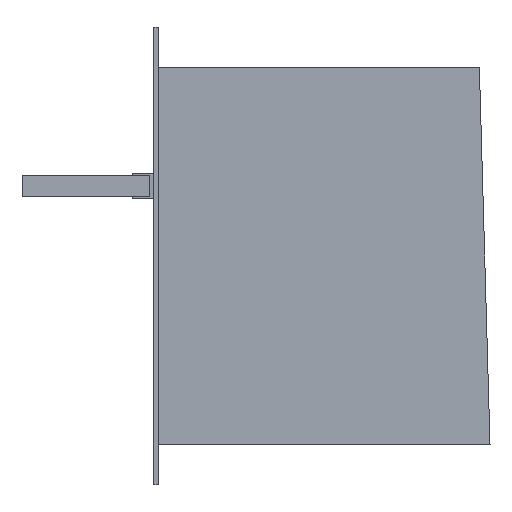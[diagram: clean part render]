
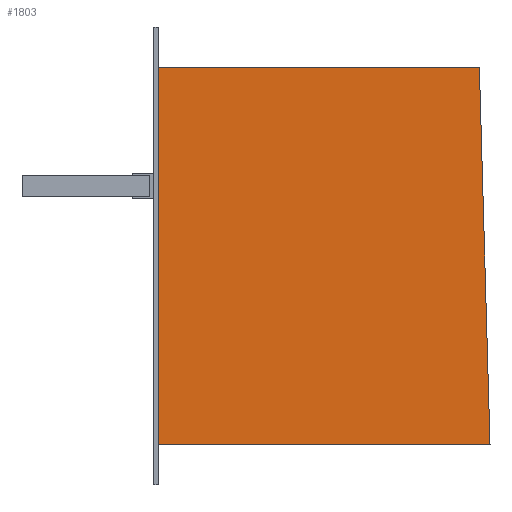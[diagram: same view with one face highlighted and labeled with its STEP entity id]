
A CAD part, left-side view. The second image highlights one B-rep face of the part: STEP entity #1803.
In plain terms, the highlighted planar face has unit normal (-1, 0, 0).
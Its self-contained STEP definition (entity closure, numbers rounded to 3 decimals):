
#3 = DIRECTION ( 'NONE',  ( 1., 0., 0. ) ) ;
#11 = CARTESIAN_POINT ( 'NONE',  ( -1241., 0., -88.5 ) ) ;
#103 = ORIENTED_EDGE ( 'NONE', *, *, #1434, .T. ) ;
#104 = VECTOR ( 'NONE', #258, 1000. ) ;
#147 = EDGE_CURVE ( 'NONE', #1546, #754, #1764, .T. ) ;
#149 = LINE ( 'NONE', #1220, #457 ) ;
#219 = CARTESIAN_POINT ( 'NONE',  ( -1241., 0., 88.5 ) ) ;
#258 = DIRECTION ( 'NONE',  ( 0., 1., 0. ) ) ;
#299 = AXIS2_PLACEMENT_3D ( 'NONE', #1351, #3, #915 ) ;
#312 = FACE_OUTER_BOUND ( 'NONE', #928, .T. ) ;
#315 = DIRECTION ( 'NONE',  ( 0., 0.028, 1. ) ) ;
#457 = VECTOR ( 'NONE', #1672, 1000. ) ;
#467 = EDGE_CURVE ( 'NONE', #625, #1601, #1193, .T. ) ;
#524 = VECTOR ( 'NONE', #315, 1000. ) ;
#545 = VECTOR ( 'NONE', #1492, 1000. ) ;
#625 = VERTEX_POINT ( 'NONE', #11 ) ;
#661 = CARTESIAN_POINT ( 'NONE',  ( -1241., -151., 88.5 ) ) ;
#754 = VERTEX_POINT ( 'NONE', #219 ) ;
#915 = DIRECTION ( 'NONE',  ( 0., 0., -1. ) ) ;
#923 = PLANE ( 'NONE',  #299 ) ;
#928 = EDGE_LOOP ( 'NONE', ( #1363, #103, #1157, #1749 ) ) ;
#957 = LINE ( 'NONE', #1557, #524 ) ;
#1157 = ORIENTED_EDGE ( 'NONE', *, *, #147, .T. ) ;
#1173 = CARTESIAN_POINT ( 'NONE',  ( -1241., -156., -88.5 ) ) ;
#1193 = LINE ( 'NONE', #1481, #545 ) ;
#1220 = CARTESIAN_POINT ( 'NONE',  ( -1241., 0., 88.5 ) ) ;
#1344 = CARTESIAN_POINT ( 'NONE',  ( -1241., 0., 88.5 ) ) ;
#1351 = CARTESIAN_POINT ( 'NONE',  ( -1241., 2., 107.5 ) ) ;
#1363 = ORIENTED_EDGE ( 'NONE', *, *, #467, .T. ) ;
#1434 = EDGE_CURVE ( 'NONE', #1601, #1546, #957, .T. ) ;
#1481 = CARTESIAN_POINT ( 'NONE',  ( -1241., 0., -88.5 ) ) ;
#1492 = DIRECTION ( 'NONE',  ( 0., -1., 0. ) ) ;
#1546 = VERTEX_POINT ( 'NONE', #661 ) ;
#1557 = CARTESIAN_POINT ( 'NONE',  ( -1241., -151., 88.5 ) ) ;
#1601 = VERTEX_POINT ( 'NONE', #1173 ) ;
#1672 = DIRECTION ( 'NONE',  ( 0., 0., -1. ) ) ;
#1749 = ORIENTED_EDGE ( 'NONE', *, *, #1794, .T. ) ;
#1764 = LINE ( 'NONE', #1344, #104 ) ;
#1794 = EDGE_CURVE ( 'NONE', #754, #625, #149, .T. ) ;
#1803 = ADVANCED_FACE ( 'NONE', ( #312 ), #923, .F. ) ;
